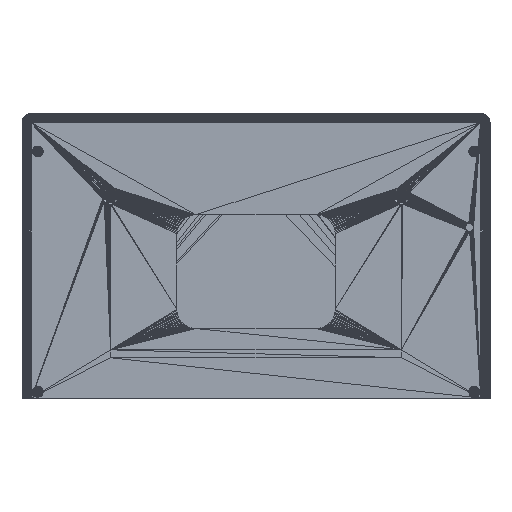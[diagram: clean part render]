
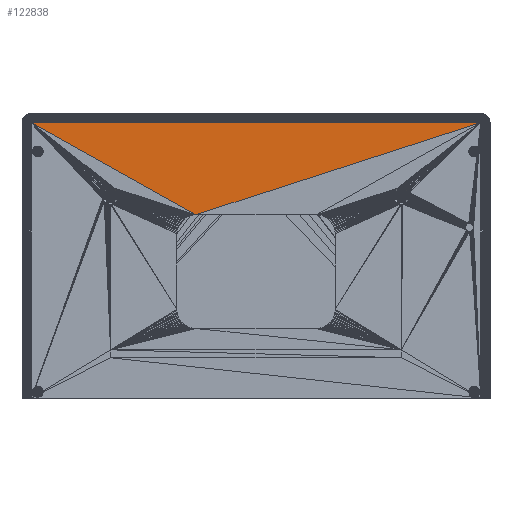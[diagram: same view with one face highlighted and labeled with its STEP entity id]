
A CAD part, top view. The second image highlights one B-rep face of the part: STEP entity #122838.
In plain terms, the highlighted planar face has unit normal (0, 0, 1).
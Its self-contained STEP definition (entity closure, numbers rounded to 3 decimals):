
#1267=CARTESIAN_POINT('',(71.0,47.098,79.998));
#1268=VERTEX_POINT('',#1267);
#1271=CARTESIAN_POINT('',(-71.0,47.098,79.998));
#1272=VERTEX_POINT('',#1271);
#7129=CARTESIAN_POINT('',(-19.0,18.0,79.998));
#7130=VERTEX_POINT('',#7129);
#41933=DIRECTION('',(-1.0,0.0,0.0));
#41934=VECTOR('',#41933,142.0);
#41935=LINE('',#1267,#41934);
#41936=EDGE_CURVE('',#1268,#1272,#41935,.T.);
#122807=DIRECTION('',(-0.952,-0.308,0.0));
#122808=VECTOR('',#122807,94.587);
#122809=LINE('',#1267,#122808);
#122810=EDGE_CURVE('',#1268,#7130,#122809,.T.);
#122825=DIRECTION('',(0.873,-0.488,0.0));
#122826=VECTOR('',#122825,59.588);
#122827=LINE('',#1271,#122826);
#122828=EDGE_CURVE('',#1272,#7130,#122827,.T.);
#122829=ORIENTED_EDGE('',*,*,#122828,.T.);
#122830=ORIENTED_EDGE('',*,*,#122810,.F.);
#122831=ORIENTED_EDGE('',*,*,#41936,.T.);
#122832=EDGE_LOOP('',(#122829,#122830,#122831));
#122833=FACE_OUTER_BOUND('',#122832,.T.);
#122834=DIRECTION('',(0.0,0.0,1.0));
#122835=DIRECTION('',(0.0,1.0,0.0));
#122836=AXIS2_PLACEMENT_3D('',#1271,#122834,#122835);
#122837=PLANE('',#122836);
#122838=ADVANCED_FACE('',(#122833),#122837,.T.);
